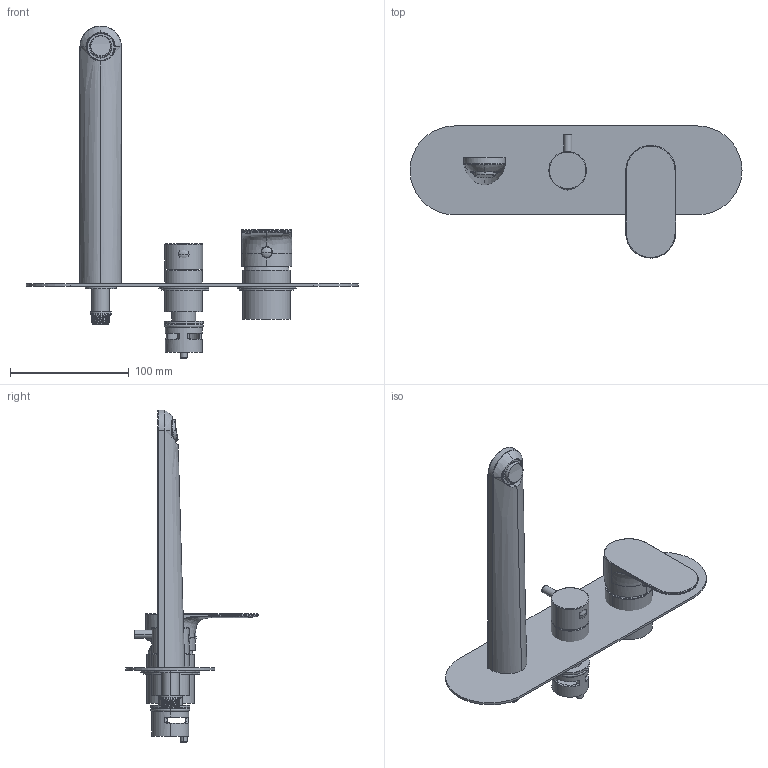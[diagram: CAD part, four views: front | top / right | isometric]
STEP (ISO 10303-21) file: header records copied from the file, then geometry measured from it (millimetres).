
FILE_DESCRIPTION((''),'2;1');
FILE_NAME('64518V2_SW0001','2023-06-01T15:48:48',('volponeff'),(''),'CREO PARAMETRIC BY PTC INC, 2022014','CREO PARAMETRIC BY PTC INC, 2022014','');
FILE_SCHEMA(('CONFIG_CONTROL_DESIGN'));
Length unit declared in the file: millimetre
Products named in the file (1): 64518V2_SW0001
Bounding box: 280 x 111.5 x 280 mm (x, y, z)
Surface area: 113606.1 mm2 (no closed solid volume)
Topology: 0 solids, 32 shells, 292 faces, 864 edges, 593 vertices
Faces by surface type: cylinder 101, plane 79, bspline 38, cone 35, torus 27, sphere 10, extrusion 2
Entity records: 17584 total; most frequent: CARTESIAN_POINT 10149, DIRECTION 1553, ORIENTED_EDGE 1412, EDGE_CURVE 860, AXIS2_PLACEMENT_3D 611, VERTEX_POINT 593, CIRCLE 359, VECTOR 331
